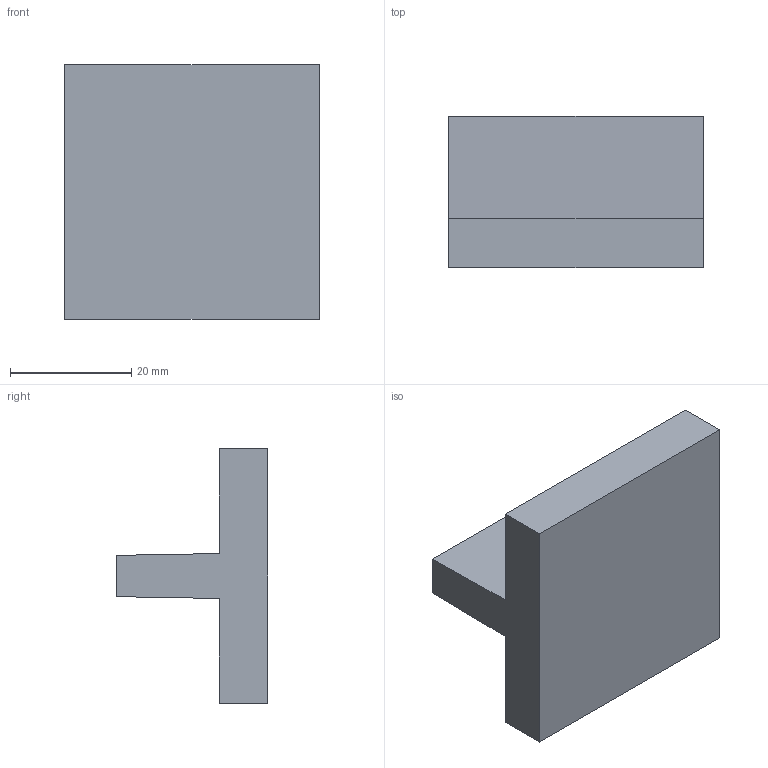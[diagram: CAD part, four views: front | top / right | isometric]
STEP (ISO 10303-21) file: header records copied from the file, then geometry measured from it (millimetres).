
FILE_DESCRIPTION( ( '' ), '1' );
FILE_NAME( 'D:/1.AUTOCAD EXPORT/Group 10/sheet_10_1/115157.stp', '2013-10-17T05:56:38', ( '' ), ( '' ), ' ', ' ', ' ' );
FILE_SCHEMA( ( 'automotive_design' ) );
Length unit declared in the file: millimetre
Products named in the file (1): 1
Bounding box: 42 x 25 x 42 mm (x, y, z)
Volume: 16754.3 mm3; surface area: 7289.2 mm2
Topology: 1 solids, 1 shells, 26 faces, 60 edges, 40 vertices
Faces by surface type: plane 18, cylinder 8
Entity records: 1472 total; most frequent: DIRECTION 130, STYLED_ITEM 127, PRESENTATION_STYLE_ASSIGNMENT 127, CARTESIAN_POINT 127, COLOUR_RGB 127, ORIENTED_EDGE 120, EDGE_CURVE 60, CURVE_STYLE 60
